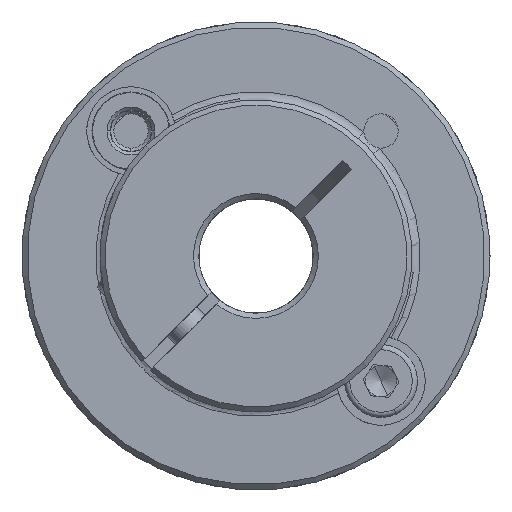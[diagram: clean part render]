
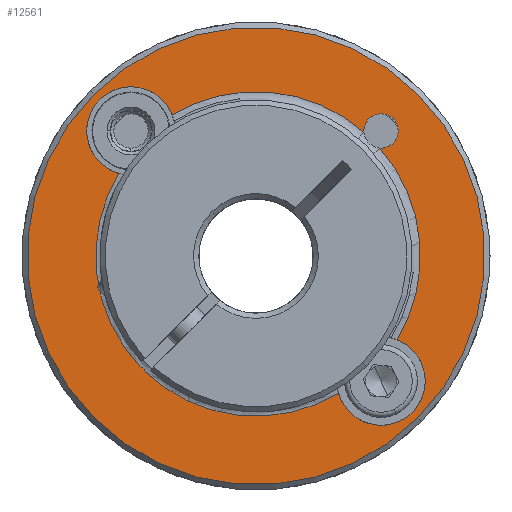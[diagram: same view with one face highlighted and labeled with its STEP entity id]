
A CAD part, front view. The second image highlights one B-rep face of the part: STEP entity #12561.
In plain terms, the highlighted planar face has unit normal (0, -1, 0).
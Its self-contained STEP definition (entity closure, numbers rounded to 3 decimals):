
#178 = DIRECTION ( 'NONE',  ( -0.707, 0., 0.707 ) ) ;
#788 = EDGE_CURVE ( 'NONE', #3146, #7614, #10579, .T. ) ;
#813 = CARTESIAN_POINT ( 'NONE',  ( 3.11, -12.641, 57.021 ) ) ;
#995 = CARTESIAN_POINT ( 'NONE',  ( -20.068, -12.641, 34.385 ) ) ;
#1034 = DIRECTION ( 'NONE',  ( 0., 1., 0. ) ) ;
#1082 = CARTESIAN_POINT ( 'NONE',  ( -20.932, -12.641, 57.021 ) ) ;
#1099 = CIRCLE ( 'NONE', #1443, 1.65 ) ;
#1205 = PLANE ( 'NONE',  #7957 ) ;
#1443 = AXIS2_PLACEMENT_3D ( 'NONE', #813, #9891, #5455 ) ;
#1900 = DIRECTION ( 'NONE',  ( 0., 1., 0. ) ) ;
#1918 = AXIS2_PLACEMENT_3D ( 'NONE', #9931, #12413, #10142 ) ;
#2039 = VERTEX_POINT ( 'NONE', #5740 ) ;
#2437 = VERTEX_POINT ( 'NONE', #6899 ) ;
#2476 = EDGE_CURVE ( 'NONE', #10162, #3710, #10707, .T. ) ;
#2737 = DIRECTION ( 'NONE',  ( -0.707, 0., 0.707 ) ) ;
#2775 = CARTESIAN_POINT ( 'NONE',  ( 1.463, -12.641, 56.917 ) ) ;
#2876 = EDGE_CURVE ( 'NONE', #7614, #8503, #4845, .T. ) ;
#3146 = VERTEX_POINT ( 'NONE', #5647 ) ;
#3229 = CIRCLE ( 'NONE', #9984, 22. ) ;
#3481 = CIRCLE ( 'NONE', #10141, 15.8 ) ;
#3511 = ORIENTED_EDGE ( 'NONE', *, *, #12165, .T. ) ;
#3710 = VERTEX_POINT ( 'NONE', #10389 ) ;
#3814 = ORIENTED_EDGE ( 'NONE', *, *, #7125, .T. ) ;
#4083 = CARTESIAN_POINT ( 'NONE',  ( 3.11, -12.641, 32.979 ) ) ;
#4170 = VERTEX_POINT ( 'NONE', #2775 ) ;
#4294 = EDGE_CURVE ( 'NONE', #11032, #4908, #5173, .T. ) ;
#4345 = CIRCLE ( 'NONE', #14887, 15.4 ) ;
#4361 = ORIENTED_EDGE ( 'NONE', *, *, #6953, .T. ) ;
#4365 = EDGE_LOOP ( 'NONE', ( #12207, #6859 ) ) ;
#4514 = DIRECTION ( 'NONE',  ( 0., 1., 0. ) ) ;
#4615 = VERTEX_POINT ( 'NONE', #8711 ) ;
#4780 = ORIENTED_EDGE ( 'NONE', *, *, #13377, .T. ) ;
#4845 = CIRCLE ( 'NONE', #8399, 4.25 ) ;
#4895 = VERTEX_POINT ( 'NONE', #995 ) ;
#4908 = VERTEX_POINT ( 'NONE', #11649 ) ;
#4932 = CARTESIAN_POINT ( 'NONE',  ( -8.911, -12.641, 45. ) ) ;
#4967 = DIRECTION ( 'NONE',  ( -0.707, 0., 0.707 ) ) ;
#4974 = CARTESIAN_POINT ( 'NONE',  ( -8.911, -12.641, 45. ) ) ;
#4980 = EDGE_CURVE ( 'NONE', #2039, #9716, #9839, .T. ) ;
#5173 = CIRCLE ( 'NONE', #1918, 15.4 ) ;
#5344 = CARTESIAN_POINT ( 'NONE',  ( 3.11, -12.641, 32.979 ) ) ;
#5455 = DIRECTION ( 'NONE',  ( -0.707, 0., 0.707 ) ) ;
#5457 = ORIENTED_EDGE ( 'NONE', *, *, #11231, .T. ) ;
#5466 = B_SPLINE_CURVE_WITH_KNOTS ( 'NONE', 3,
 ( #6305, #7474, #7331, #9781 ),
 .UNSPECIFIED., .F., .F.,
 ( 4, 4 ),
 ( 0., 1. ),
 .UNSPECIFIED. ) ;
#5573 = AXIS2_PLACEMENT_3D ( 'NONE', #1082, #1034, #11536 ) ;
#5647 = CARTESIAN_POINT ( 'NONE',  ( 3.006, -12.641, 55.374 ) ) ;
#5662 = CIRCLE ( 'NONE', #6954, 1.65 ) ;
#5740 = CARTESIAN_POINT ( 'NONE',  ( 6.646, -12.641, 29.444 ) ) ;
#5900 = CARTESIAN_POINT ( 'NONE',  ( -8.911, -12.641, 45. ) ) ;
#5930 = CIRCLE ( 'NONE', #10275, 1.65 ) ;
#5999 = AXIS2_PLACEMENT_3D ( 'NONE', #6177, #10671, #4967 ) ;
#6132 = DIRECTION ( 'NONE',  ( -0.707, 0., 0.707 ) ) ;
#6167 = CARTESIAN_POINT ( 'NONE',  ( 3.11, -12.641, 57.021 ) ) ;
#6177 = CARTESIAN_POINT ( 'NONE',  ( -20.932, -12.641, 57.021 ) ) ;
#6276 = CARTESIAN_POINT ( 'NONE',  ( -8.911, -12.641, 45. ) ) ;
#6305 = CARTESIAN_POINT ( 'NONE',  ( -19.526, -12.641, 33.843 ) ) ;
#6356 = ORIENTED_EDGE ( 'NONE', *, *, #2476, .T. ) ;
#6466 = DIRECTION ( 'NONE',  ( 0., 1., 0. ) ) ;
#6485 = DIRECTION ( 'NONE',  ( -0.707, 0., 0.707 ) ) ;
#6633 = CARTESIAN_POINT ( 'NONE',  ( 4.674, -12.641, 36.931 ) ) ;
#6722 = CIRCLE ( 'NONE', #5999, 4.25 ) ;
#6844 = ORIENTED_EDGE ( 'NONE', *, *, #788, .T. ) ;
#6859 = ORIENTED_EDGE ( 'NONE', *, *, #14344, .T. ) ;
#6871 = CARTESIAN_POINT ( 'NONE',  ( -8.911, -12.641, 45. ) ) ;
#6899 = CARTESIAN_POINT ( 'NONE',  ( 4.277, -12.641, 55.854 ) ) ;
#6953 = EDGE_CURVE ( 'NONE', #4170, #11186, #5930, .T. ) ;
#6954 = AXIS2_PLACEMENT_3D ( 'NONE', #14731, #4514, #6485 ) ;
#7057 = CARTESIAN_POINT ( 'NONE',  ( -24.467, -12.641, 60.556 ) ) ;
#7125 = EDGE_CURVE ( 'NONE', #8503, #11032, #8626, .T. ) ;
#7331 = CARTESIAN_POINT ( 'NONE',  ( -19.844, -12.641, 34.248 ) ) ;
#7474 = CARTESIAN_POINT ( 'NONE',  ( -19.663, -12.641, 34.067 ) ) ;
#7614 = VERTEX_POINT ( 'NONE', #6633 ) ;
#7957 = AXIS2_PLACEMENT_3D ( 'NONE', #4932, #12913, #178 ) ;
#8399 = AXIS2_PLACEMENT_3D ( 'NONE', #4083, #8740, #13356 ) ;
#8503 = VERTEX_POINT ( 'NONE', #11537 ) ;
#8626 = CIRCLE ( 'NONE', #12513, 4.25 ) ;
#8659 = FACE_OUTER_BOUND ( 'NONE', #4365, .T. ) ;
#8661 = CARTESIAN_POINT ( 'NONE',  ( -0.974, -12.641, 31.803 ) ) ;
#8711 = CARTESIAN_POINT ( 'NONE',  ( -22.108, -12.641, 52.937 ) ) ;
#8740 = DIRECTION ( 'NONE',  ( 0., 1., 0. ) ) ;
#8959 = DIRECTION ( 'NONE',  ( -0.707, 0., 0.707 ) ) ;
#9027 = DIRECTION ( 'NONE',  ( 0., 1., 0. ) ) ;
#9394 = ORIENTED_EDGE ( 'NONE', *, *, #11550, .T. ) ;
#9539 = EDGE_LOOP ( 'NONE', ( #4780, #9394, #6356, #5457, #4361, #10133, #10325, #6844, #11221, #3814, #10493, #3511 ) ) ;
#9716 = VERTEX_POINT ( 'NONE', #7057 ) ;
#9737 = DIRECTION ( 'NONE',  ( 0., 1., 0. ) ) ;
#9781 = CARTESIAN_POINT ( 'NONE',  ( -20.068, -12.641, 34.385 ) ) ;
#9839 = CIRCLE ( 'NONE', #11531, 22. ) ;
#9842 = DIRECTION ( 'NONE',  ( -0.707, 0., 0.707 ) ) ;
#9891 = DIRECTION ( 'NONE',  ( 0., 1., 0. ) ) ;
#9931 = CARTESIAN_POINT ( 'NONE',  ( -8.911, -12.641, 45. ) ) ;
#9983 = DIRECTION ( 'NONE',  ( -0.707, 0., 0.707 ) ) ;
#9984 = AXIS2_PLACEMENT_3D ( 'NONE', #5900, #10538, #6132 ) ;
#10059 = EDGE_CURVE ( 'NONE', #2437, #3146, #5662, .T. ) ;
#10133 = ORIENTED_EDGE ( 'NONE', *, *, #13494, .T. ) ;
#10141 = AXIS2_PLACEMENT_3D ( 'NONE', #14856, #9027, #12552 ) ;
#10142 = DIRECTION ( 'NONE',  ( -0.707, 0., 0.707 ) ) ;
#10162 = VERTEX_POINT ( 'NONE', #13671 ) ;
#10275 = AXIS2_PLACEMENT_3D ( 'NONE', #6167, #9737, #9842 ) ;
#10325 = ORIENTED_EDGE ( 'NONE', *, *, #10059, .T. ) ;
#10389 = CARTESIAN_POINT ( 'NONE',  ( -16.98, -12.641, 58.584 ) ) ;
#10493 = ORIENTED_EDGE ( 'NONE', *, *, #4294, .T. ) ;
#10538 = DIRECTION ( 'NONE',  ( 0., -1., 0. ) ) ;
#10579 = CIRCLE ( 'NONE', #14404, 15.8 ) ;
#10671 = DIRECTION ( 'NONE',  ( 0., 1., 0. ) ) ;
#10688 = DIRECTION ( 'NONE',  ( 0., 1., 0. ) ) ;
#10707 = CIRCLE ( 'NONE', #5573, 4.25 ) ;
#11032 = VERTEX_POINT ( 'NONE', #8661 ) ;
#11186 = VERTEX_POINT ( 'NONE', #14648 ) ;
#11221 = ORIENTED_EDGE ( 'NONE', *, *, #2876, .T. ) ;
#11231 = EDGE_CURVE ( 'NONE', #3710, #4170, #3481, .T. ) ;
#11531 = AXIS2_PLACEMENT_3D ( 'NONE', #6276, #14326, #2737 ) ;
#11536 = DIRECTION ( 'NONE',  ( -0.707, 0., 0.707 ) ) ;
#11537 = CARTESIAN_POINT ( 'NONE',  ( 6.115, -12.641, 29.974 ) ) ;
#11550 = EDGE_CURVE ( 'NONE', #4615, #10162, #6722, .T. ) ;
#11649 = CARTESIAN_POINT ( 'NONE',  ( -19.526, -12.641, 33.843 ) ) ;
#12165 = EDGE_CURVE ( 'NONE', #4908, #4895, #5466, .T. ) ;
#12207 = ORIENTED_EDGE ( 'NONE', *, *, #4980, .T. ) ;
#12413 = DIRECTION ( 'NONE',  ( 0., 1., 0. ) ) ;
#12513 = AXIS2_PLACEMENT_3D ( 'NONE', #5344, #6466, #8959 ) ;
#12552 = DIRECTION ( 'NONE',  ( -0.707, 0., 0.707 ) ) ;
#12561 = ADVANCED_FACE ( 'NONE', ( #14781, #8659 ), #1205, .T. ) ;
#12913 = DIRECTION ( 'NONE',  ( 0., -1., 0. ) ) ;
#13356 = DIRECTION ( 'NONE',  ( -0.707, 0., 0.707 ) ) ;
#13377 = EDGE_CURVE ( 'NONE', #4895, #4615, #4345, .T. ) ;
#13494 = EDGE_CURVE ( 'NONE', #11186, #2437, #1099, .T. ) ;
#13671 = CARTESIAN_POINT ( 'NONE',  ( -23.937, -12.641, 60.026 ) ) ;
#14193 = DIRECTION ( 'NONE',  ( -0.707, 0., 0.707 ) ) ;
#14326 = DIRECTION ( 'NONE',  ( 0., -1., 0. ) ) ;
#14344 = EDGE_CURVE ( 'NONE', #9716, #2039, #3229, .T. ) ;
#14404 = AXIS2_PLACEMENT_3D ( 'NONE', #4974, #10688, #14193 ) ;
#14648 = CARTESIAN_POINT ( 'NONE',  ( 1.943, -12.641, 58.188 ) ) ;
#14731 = CARTESIAN_POINT ( 'NONE',  ( 3.11, -12.641, 57.021 ) ) ;
#14781 = FACE_BOUND ( 'NONE', #9539, .T. ) ;
#14856 = CARTESIAN_POINT ( 'NONE',  ( -8.911, -12.641, 45. ) ) ;
#14887 = AXIS2_PLACEMENT_3D ( 'NONE', #6871, #1900, #9983 ) ;
